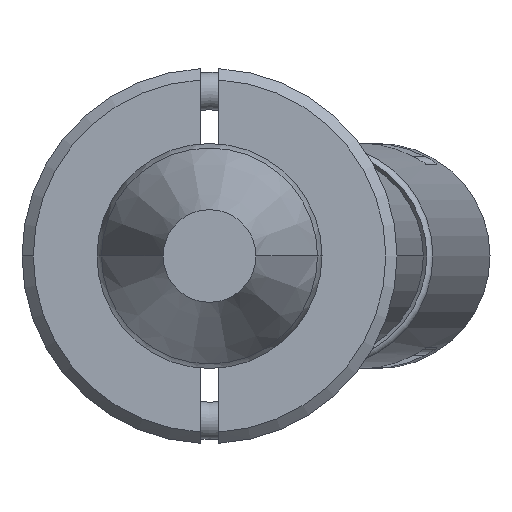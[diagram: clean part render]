
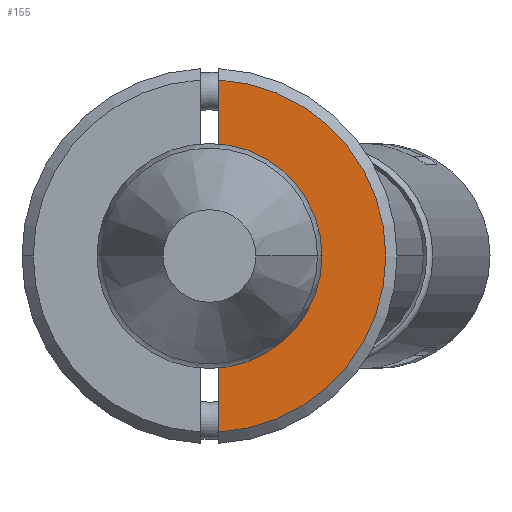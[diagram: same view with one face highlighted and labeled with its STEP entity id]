
A CAD part, front view. The second image highlights one B-rep face of the part: STEP entity #155.
In plain terms, the highlighted planar face has unit normal (0, -1, 0).
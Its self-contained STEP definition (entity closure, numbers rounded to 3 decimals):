
#108 = ORIENTED_EDGE ( 'NONE', *, *, #3571, .F. ) ;
#155 = ADVANCED_FACE ( 'NONE', ( #616 ), #2710, .T. ) ;
#205 = EDGE_CURVE ( 'NONE', #2337, #2185, #323, .T. ) ;
#323 = CIRCLE ( 'NONE', #2488, 2.45 ) ;
#328 = CARTESIAN_POINT ( 'NONE',  ( 0., -6., -2.45 ) ) ;
#390 = DIRECTION ( 'NONE',  ( 0., 0., -1. ) ) ;
#501 = AXIS2_PLACEMENT_3D ( 'NONE', #3207, #2923, #972 ) ;
#585 = AXIS2_PLACEMENT_3D ( 'NONE', #1265, #3278, #2722 ) ;
#616 = FACE_OUTER_BOUND ( 'NONE', #3040, .T. ) ;
#646 = CARTESIAN_POINT ( 'NONE',  ( -4.693, -6., -0.25 ) ) ;
#720 = CIRCLE ( 'NONE', #585, 2.45 ) ;
#911 = CARTESIAN_POINT ( 'NONE',  ( -5., -6., 0. ) ) ;
#947 = DIRECTION ( 'NONE',  ( 0., -1., 0. ) ) ;
#972 = DIRECTION ( 'NONE',  ( 0., 0., -1. ) ) ;
#1211 = CARTESIAN_POINT ( 'NONE',  ( 0., -6., 0. ) ) ;
#1249 = DIRECTION ( 'NONE',  ( 0., 0., -1. ) ) ;
#1265 = CARTESIAN_POINT ( 'NONE',  ( 0., -6., 0. ) ) ;
#1539 = EDGE_CURVE ( 'NONE', #2940, #2337, #720, .T. ) ;
#1846 = CARTESIAN_POINT ( 'NONE',  ( -2.437, -6., -0.25 ) ) ;
#2020 = LINE ( 'NONE', #3172, #3425 ) ;
#2168 = CIRCLE ( 'NONE', #501, 4.7 ) ;
#2185 = VERTEX_POINT ( 'NONE', #1846 ) ;
#2337 = VERTEX_POINT ( 'NONE', #328 ) ;
#2366 = ORIENTED_EDGE ( 'NONE', *, *, #2842, .F. ) ;
#2421 = CARTESIAN_POINT ( 'NONE',  ( 4.693, -6., -0.25 ) ) ;
#2427 = LINE ( 'NONE', #3615, #2589 ) ;
#2488 = AXIS2_PLACEMENT_3D ( 'NONE', #1211, #3580, #1249 ) ;
#2491 = CARTESIAN_POINT ( 'NONE',  ( 2.437, -6., -0.25 ) ) ;
#2585 = ORIENTED_EDGE ( 'NONE', *, *, #205, .T. ) ;
#2589 = VECTOR ( 'NONE', #2705, 1000. ) ;
#2705 = DIRECTION ( 'NONE',  ( 1., 0., 0. ) ) ;
#2710 = PLANE ( 'NONE',  #3153 ) ;
#2722 = DIRECTION ( 'NONE',  ( 0., 0., -1. ) ) ;
#2759 = ORIENTED_EDGE ( 'NONE', *, *, #3831, .T. ) ;
#2842 = EDGE_CURVE ( 'NONE', #2940, #3730, #2427, .T. ) ;
#2870 = DIRECTION ( 'NONE',  ( 1., 0., 0. ) ) ;
#2923 = DIRECTION ( 'NONE',  ( 0., -1., 0. ) ) ;
#2940 = VERTEX_POINT ( 'NONE', #2491 ) ;
#3040 = EDGE_LOOP ( 'NONE', ( #108, #2759, #2366, #3468, #2585 ) ) ;
#3153 = AXIS2_PLACEMENT_3D ( 'NONE', #911, #947, #390 ) ;
#3172 = CARTESIAN_POINT ( 'NONE',  ( -5., -6., -0.25 ) ) ;
#3207 = CARTESIAN_POINT ( 'NONE',  ( 0., -6., 0. ) ) ;
#3272 = VERTEX_POINT ( 'NONE', #646 ) ;
#3278 = DIRECTION ( 'NONE',  ( 0., 1., 0. ) ) ;
#3425 = VECTOR ( 'NONE', #2870, 1000. ) ;
#3468 = ORIENTED_EDGE ( 'NONE', *, *, #1539, .T. ) ;
#3571 = EDGE_CURVE ( 'NONE', #3272, #2185, #2020, .T. ) ;
#3580 = DIRECTION ( 'NONE',  ( 0., 1., 0. ) ) ;
#3615 = CARTESIAN_POINT ( 'NONE',  ( -5., -6., -0.25 ) ) ;
#3730 = VERTEX_POINT ( 'NONE', #2421 ) ;
#3831 = EDGE_CURVE ( 'NONE', #3272, #3730, #2168, .T. ) ;
